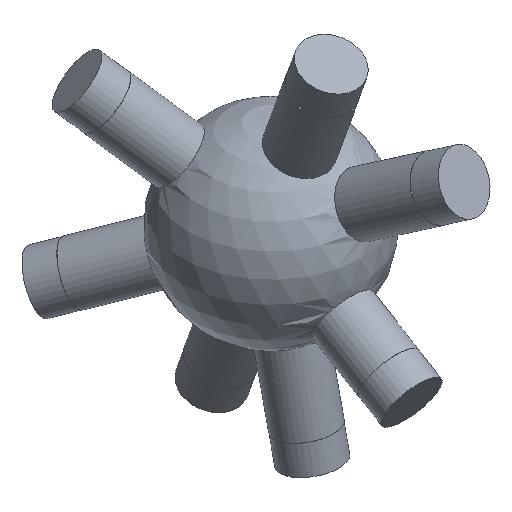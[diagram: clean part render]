
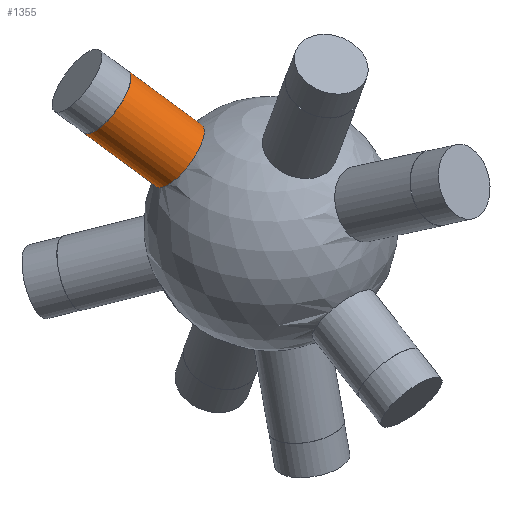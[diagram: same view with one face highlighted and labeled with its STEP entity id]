
A CAD part, isometric view. The second image highlights one B-rep face of the part: STEP entity #1355.
In plain terms, the highlighted cylindrical face has radius 6 mm (diameter 12 mm), a full revolution.
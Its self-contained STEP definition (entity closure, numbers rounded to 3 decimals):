
#33 = SPHERICAL_SURFACE('',#34,20.);
#34 = AXIS2_PLACEMENT_3D('',#35,#36,#37);
#35 = CARTESIAN_POINT('',(0.,0.,0.));
#36 = DIRECTION('',(0.,0.,1.));
#37 = DIRECTION('',(1.,0.,-0.));
#663 = EDGE_CURVE('',#664,#664,#666,.T.);
#664 = VERTEX_POINT('',#665);
#665 = CARTESIAN_POINT('',(-9.686,15.258,8.566
    ));
#666 = SURFACE_CURVE('',#667,(#672,#755),.PCURVE_S1.);
#667 = CIRCLE('',#668,6.);
#668 = AXIS2_PLACEMENT_3D('',#669,#670,#671);
#669 = CARTESIAN_POINT('',(-9.686,10.705,
    12.473));
#670 = DIRECTION('',(-0.508,0.561,0.654));
#671 = DIRECTION('',(0.,-0.759,0.651));
#672 = PCURVE('',#33,#673);
#673 = DEFINITIONAL_REPRESENTATION('',(#674),#754);
#674 = B_SPLINE_CURVE_WITH_KNOTS('',8,(#675,#676,#677,#678,#679,#680,
    #681,#682,#683,#684,#685,#686,#687,#688,#689,#690,#691,#692,#693,
    #694,#695,#696,#697,#698,#699,#700,#701,#702,#703,#704,#705,#706,
    #707,#708,#709,#710,#711,#712,#713,#714,#715,#716,#717,#718,#719,
    #720,#721,#722,#723,#724,#725,#726,#727,#728,#729,#730,#731,#732,
    #733,#734,#735,#736,#737,#738,#739,#740,#741,#742,#743,#744,#745,
    #746,#747,#748,#749,#750,#751,#752,#753),.UNSPECIFIED.,.T.,.F.,(9,7,
    7,7,7,7,7,7,7,7,7,9),(3.142,3.927,4.614,
    5.216,5.742,6.202,6.605,
    6.957,7.574,8.037,8.731,
    9.425),.UNSPECIFIED.);
#675 = CARTESIAN_POINT('',(2.136,0.443));
#676 = CARTESIAN_POINT('',(2.166,0.43));
#677 = CARTESIAN_POINT('',(2.196,0.42));
#678 = CARTESIAN_POINT('',(2.228,0.412));
#679 = CARTESIAN_POINT('',(2.26,0.408));
#680 = CARTESIAN_POINT('',(2.292,0.406));
#681 = CARTESIAN_POINT('',(2.324,0.406));
#682 = CARTESIAN_POINT('',(2.356,0.41));
#683 = CARTESIAN_POINT('',(2.415,0.421));
#684 = CARTESIAN_POINT('',(2.443,0.428));
#685 = CARTESIAN_POINT('',(2.469,0.438));
#686 = CARTESIAN_POINT('',(2.495,0.449));
#687 = CARTESIAN_POINT('',(2.52,0.462));
#688 = CARTESIAN_POINT('',(2.544,0.477));
#689 = CARTESIAN_POINT('',(2.566,0.493));
#690 = CARTESIAN_POINT('',(2.606,0.527));
#691 = CARTESIAN_POINT('',(2.623,0.544));
#692 = CARTESIAN_POINT('',(2.639,0.562));
#693 = CARTESIAN_POINT('',(2.654,0.581));
#694 = CARTESIAN_POINT('',(2.668,0.601));
#695 = CARTESIAN_POINT('',(2.679,0.622));
#696 = CARTESIAN_POINT('',(2.689,0.643));
#697 = CARTESIAN_POINT('',(2.704,0.683));
#698 = CARTESIAN_POINT('',(2.709,0.703));
#699 = CARTESIAN_POINT('',(2.713,0.722));
#700 = CARTESIAN_POINT('',(2.715,0.742));
#701 = CARTESIAN_POINT('',(2.716,0.762));
#702 = CARTESIAN_POINT('',(2.714,0.782));
#703 = CARTESIAN_POINT('',(2.71,0.801));
#704 = CARTESIAN_POINT('',(2.698,0.837));
#705 = CARTESIAN_POINT('',(2.691,0.854));
#706 = CARTESIAN_POINT('',(2.682,0.87));
#707 = CARTESIAN_POINT('',(2.671,0.886));
#708 = CARTESIAN_POINT('',(2.658,0.901));
#709 = CARTESIAN_POINT('',(2.642,0.916));
#710 = CARTESIAN_POINT('',(2.625,0.93));
#711 = CARTESIAN_POINT('',(2.588,0.954));
#712 = CARTESIAN_POINT('',(2.569,0.964));
#713 = CARTESIAN_POINT('',(2.549,0.974));
#714 = CARTESIAN_POINT('',(2.527,0.983));
#715 = CARTESIAN_POINT('',(2.503,0.991));
#716 = CARTESIAN_POINT('',(2.478,0.997));
#717 = CARTESIAN_POINT('',(2.452,1.003));
#718 = CARTESIAN_POINT('',(2.401,1.012));
#719 = CARTESIAN_POINT('',(2.377,1.015));
#720 = CARTESIAN_POINT('',(2.352,1.017));
#721 = CARTESIAN_POINT('',(2.327,1.018));
#722 = CARTESIAN_POINT('',(2.302,1.018));
#723 = CARTESIAN_POINT('',(2.277,1.017));
#724 = CARTESIAN_POINT('',(2.252,1.016));
#725 = CARTESIAN_POINT('',(2.184,1.008));
#726 = CARTESIAN_POINT('',(2.143,1.001));
#727 = CARTESIAN_POINT('',(2.104,0.991));
#728 = CARTESIAN_POINT('',(2.068,0.978));
#729 = CARTESIAN_POINT('',(2.037,0.963));
#730 = CARTESIAN_POINT('',(2.009,0.947));
#731 = CARTESIAN_POINT('',(1.985,0.928));
#732 = CARTESIAN_POINT('',(1.95,0.894));
#733 = CARTESIAN_POINT('',(1.937,0.879));
#734 = CARTESIAN_POINT('',(1.926,0.863));
#735 = CARTESIAN_POINT('',(1.917,0.846));
#736 = CARTESIAN_POINT('',(1.91,0.829));
#737 = CARTESIAN_POINT('',(1.905,0.812));
#738 = CARTESIAN_POINT('',(1.902,0.795));
#739 = CARTESIAN_POINT('',(1.897,0.752));
#740 = CARTESIAN_POINT('',(1.898,0.726));
#741 = CARTESIAN_POINT('',(1.902,0.7));
#742 = CARTESIAN_POINT('',(1.909,0.674));
#743 = CARTESIAN_POINT('',(1.919,0.649));
#744 = CARTESIAN_POINT('',(1.931,0.625));
#745 = CARTESIAN_POINT('',(1.946,0.601));
#746 = CARTESIAN_POINT('',(1.978,0.557));
#747 = CARTESIAN_POINT('',(1.996,0.536));
#748 = CARTESIAN_POINT('',(2.016,0.516));
#749 = CARTESIAN_POINT('',(2.038,0.498));
#750 = CARTESIAN_POINT('',(2.061,0.482));
#751 = CARTESIAN_POINT('',(2.085,0.467));
#752 = CARTESIAN_POINT('',(2.11,0.454));
#753 = CARTESIAN_POINT('',(2.136,0.443));
#754 = ( GEOMETRIC_REPRESENTATION_CONTEXT(2) 
PARAMETRIC_REPRESENTATION_CONTEXT() REPRESENTATION_CONTEXT('2D SPACE',''
  ) );
#755 = PCURVE('',#756,#761);
#756 = CYLINDRICAL_SURFACE('',#757,6.);
#757 = AXIS2_PLACEMENT_3D('',#758,#759,#760);
#758 = CARTESIAN_POINT('',(0.,0.,0.));
#759 = DIRECTION('',(-0.508,0.561,0.654));
#760 = DIRECTION('',(0.,0.759,-0.651));
#761 = DEFINITIONAL_REPRESENTATION('',(#762),#766);
#762 = LINE('',#763,#764);
#763 = CARTESIAN_POINT('',(-3.142,19.079));
#764 = VECTOR('',#765,1.);
#765 = DIRECTION('',(1.,0.));
#766 = ( GEOMETRIC_REPRESENTATION_CONTEXT(2) 
PARAMETRIC_REPRESENTATION_CONTEXT() REPRESENTATION_CONTEXT('2D SPACE',''
  ) );
#1355 = ADVANCED_FACE('',(#1356),#756,.T.);
#1356 = FACE_BOUND('',#1357,.T.);
#1357 = EDGE_LOOP('',(#1358,#1381,#1408,#1409));
#1358 = ORIENTED_EDGE('',*,*,#1359,.T.);
#1359 = EDGE_CURVE('',#664,#1360,#1362,.T.);
#1360 = VERTEX_POINT('',#1361);
#1361 = CARTESIAN_POINT('',(-17.394,23.776,
    18.492));
#1362 = SEAM_CURVE('',#1363,(#1367,#1374),.PCURVE_S1.);
#1363 = LINE('',#1364,#1365);
#1364 = CARTESIAN_POINT('',(0.,4.553,
    -3.908));
#1365 = VECTOR('',#1366,1.);
#1366 = DIRECTION('',(-0.508,0.561,0.654));
#1367 = PCURVE('',#756,#1368);
#1368 = DEFINITIONAL_REPRESENTATION('',(#1369),#1373);
#1369 = LINE('',#1370,#1371);
#1370 = CARTESIAN_POINT('',(6.283,-0.));
#1371 = VECTOR('',#1372,1.);
#1372 = DIRECTION('',(0.,1.));
#1373 = ( GEOMETRIC_REPRESENTATION_CONTEXT(2) 
PARAMETRIC_REPRESENTATION_CONTEXT() REPRESENTATION_CONTEXT('2D SPACE',''
  ) );
#1374 = PCURVE('',#756,#1375);
#1375 = DEFINITIONAL_REPRESENTATION('',(#1376),#1380);
#1376 = LINE('',#1377,#1378);
#1377 = CARTESIAN_POINT('',(0.,-0.));
#1378 = VECTOR('',#1379,1.);
#1379 = DIRECTION('',(0.,1.));
#1380 = ( GEOMETRIC_REPRESENTATION_CONTEXT(2) 
PARAMETRIC_REPRESENTATION_CONTEXT() REPRESENTATION_CONTEXT('2D SPACE',''
  ) );
#1381 = ORIENTED_EDGE('',*,*,#1382,.F.);
#1382 = EDGE_CURVE('',#1360,#1360,#1383,.T.);
#1383 = SURFACE_CURVE('',#1384,(#1389,#1396),.PCURVE_S1.);
#1384 = CIRCLE('',#1385,6.);
#1385 = AXIS2_PLACEMENT_3D('',#1386,#1387,#1388);
#1386 = CARTESIAN_POINT('',(-17.394,19.223,
    22.4));
#1387 = DIRECTION('',(-0.508,0.561,0.654));
#1388 = DIRECTION('',(0.,0.759,-0.651)
  );
#1389 = PCURVE('',#756,#1390);
#1390 = DEFINITIONAL_REPRESENTATION('',(#1391),#1395);
#1391 = LINE('',#1392,#1393);
#1392 = CARTESIAN_POINT('',(0.,34.261));
#1393 = VECTOR('',#1394,1.);
#1394 = DIRECTION('',(1.,0.));
#1395 = ( GEOMETRIC_REPRESENTATION_CONTEXT(2) 
PARAMETRIC_REPRESENTATION_CONTEXT() REPRESENTATION_CONTEXT('2D SPACE',''
  ) );
#1396 = PCURVE('',#1397,#1402);
#1397 = PLANE('',#1398);
#1398 = AXIS2_PLACEMENT_3D('',#1399,#1400,#1401);
#1399 = CARTESIAN_POINT('',(-17.394,19.223,
    22.4));
#1400 = DIRECTION('',(-0.508,0.561,0.654));
#1401 = DIRECTION('',(0.,0.759,-0.651));
#1402 = DEFINITIONAL_REPRESENTATION('',(#1403),#1407);
#1403 = CIRCLE('',#1404,6.);
#1404 = AXIS2_PLACEMENT_2D('',#1405,#1406);
#1405 = CARTESIAN_POINT('',(0.,0.));
#1406 = DIRECTION('',(1.,0.));
#1407 = ( GEOMETRIC_REPRESENTATION_CONTEXT(2) 
PARAMETRIC_REPRESENTATION_CONTEXT() REPRESENTATION_CONTEXT('2D SPACE',''
  ) );
#1408 = ORIENTED_EDGE('',*,*,#1359,.F.);
#1409 = ORIENTED_EDGE('',*,*,#663,.T.);
